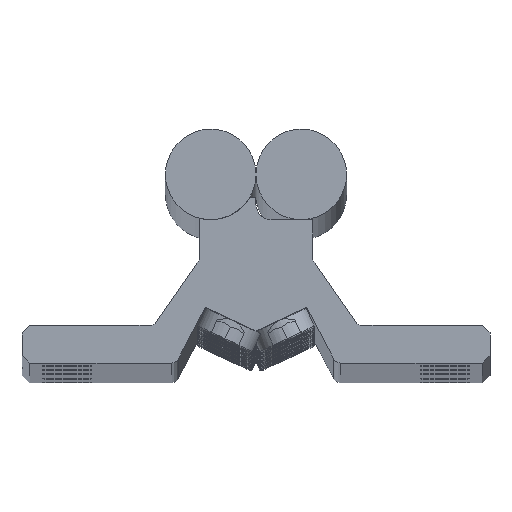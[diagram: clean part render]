
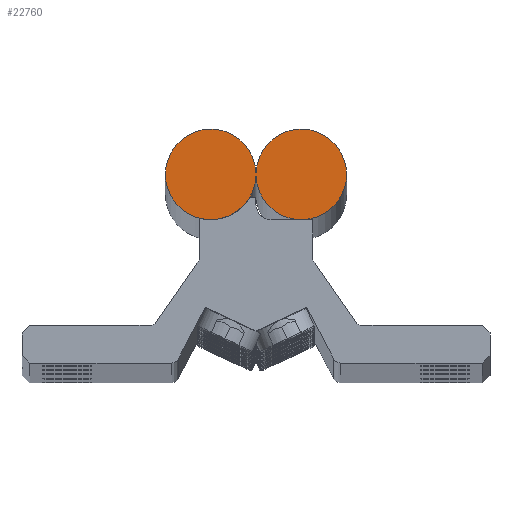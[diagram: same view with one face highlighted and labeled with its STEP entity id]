
A CAD part, top view. The second image highlights one B-rep face of the part: STEP entity #22760.
In plain terms, the highlighted planar face has unit normal (0, 0, 1).
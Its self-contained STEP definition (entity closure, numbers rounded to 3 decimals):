
#1920 = VERTEX_POINT ( 'NONE', #20670 ) ;
#1922 = EDGE_CURVE ( 'NONE', #2321, #1920, #20668, .T. ) ;
#1939 = EDGE_CURVE ( 'NONE', #1920, #1948, #20705, .T. ) ;
#1947 = EDGE_CURVE ( 'NONE', #1948, #1968, #20753, .T. ) ;
#1948 = VERTEX_POINT ( 'NONE', #20749 ) ;
#1967 = EDGE_CURVE ( 'NONE', #1968, #2308, #20786, .T. ) ;
#1968 = VERTEX_POINT ( 'NONE', #20782 ) ;
#2308 = VERTEX_POINT ( 'NONE', #21311 ) ;
#2309 = EDGE_CURVE ( 'NONE', #2308, #2321, #21310, .T. ) ;
#2321 = VERTEX_POINT ( 'NONE', #21344 ) ;
#9559 = DIRECTION ( 'NONE',  ( 1., 0., 0. ) ) ;
#9560 = DIRECTION ( 'NONE',  ( 0., 0., 1. ) ) ;
#9561 = CARTESIAN_POINT ( 'NONE',  ( 6., 25., 1. ) ) ;
#9562 = AXIS2_PLACEMENT_3D ( 'NONE', #9561, #9560, #9559 ) ;
#9563 = PLANE ( 'NONE',  #9562 ) ;
#9564 = FACE_OUTER_BOUND ( 'NONE', #22763, .T. ) ;
#20664 = DIRECTION ( 'NONE',  ( 1., 0., 0. ) ) ;
#20665 = DIRECTION ( 'NONE',  ( 0., 0., 1. ) ) ;
#20666 = CARTESIAN_POINT ( 'NONE',  ( 6., 25., 1. ) ) ;
#20667 = AXIS2_PLACEMENT_3D ( 'NONE', #20666, #20665, #20664 ) ;
#20668 = CIRCLE ( 'NONE', #20667, 6. ) ;
#20670 = CARTESIAN_POINT ( 'NONE',  ( 0.005, 25.25, 1. ) ) ;
#20702 = DIRECTION ( 'NONE',  ( -1., 0., 0. ) ) ;
#20703 = VECTOR ( 'NONE', #20702, 1000. ) ;
#20704 = CARTESIAN_POINT ( 'NONE',  ( 0.005, 25.25, 1. ) ) ;
#20705 = LINE ( 'NONE', #20704, #20703 ) ;
#20749 = CARTESIAN_POINT ( 'NONE',  ( -0.005, 25.25, 1. ) ) ;
#20750 = DIRECTION ( 'NONE',  ( 1., 0., 0. ) ) ;
#20751 = DIRECTION ( 'NONE',  ( 0., 0., 1. ) ) ;
#20752 = AXIS2_PLACEMENT_3D ( 'NONE', #20757, #20751, #20750 ) ;
#20753 = CIRCLE ( 'NONE', #20752, 6. ) ;
#20757 = CARTESIAN_POINT ( 'NONE',  ( -6., 25., 1. ) ) ;
#20782 = CARTESIAN_POINT ( 'NONE',  ( -0.005, 24.75, 1. ) ) ;
#20783 = DIRECTION ( 'NONE',  ( 1., 0., 0. ) ) ;
#20784 = VECTOR ( 'NONE', #20783, 1000. ) ;
#20785 = CARTESIAN_POINT ( 'NONE',  ( -0.005, 24.75, 1. ) ) ;
#20786 = LINE ( 'NONE', #20785, #20784 ) ;
#21306 = DIRECTION ( 'NONE',  ( 1., 0., 0. ) ) ;
#21307 = DIRECTION ( 'NONE',  ( 0., 0., 1. ) ) ;
#21308 = CARTESIAN_POINT ( 'NONE',  ( 6., 25., 1. ) ) ;
#21309 = AXIS2_PLACEMENT_3D ( 'NONE', #21308, #21307, #21306 ) ;
#21310 = CIRCLE ( 'NONE', #21309, 6. ) ;
#21311 = CARTESIAN_POINT ( 'NONE',  ( 0.005, 24.75, 1. ) ) ;
#21344 = CARTESIAN_POINT ( 'NONE',  ( 12., 25., 1. ) ) ;
#22721 = ORIENTED_EDGE ( 'NONE', *, *, #2309, .T. ) ;
#22723 = ORIENTED_EDGE ( 'NONE', *, *, #1922, .T. ) ;
#22724 = ORIENTED_EDGE ( 'NONE', *, *, #1939, .T. ) ;
#22726 = ORIENTED_EDGE ( 'NONE', *, *, #1947, .T. ) ;
#22728 = ORIENTED_EDGE ( 'NONE', *, *, #1967, .T. ) ;
#22760 = ADVANCED_FACE ( 'NONE', ( #9564 ), #9563, .T. ) ;
#22763 = EDGE_LOOP ( 'NONE', ( #22721, #22723, #22724, #22726, #22728 ) ) ;
